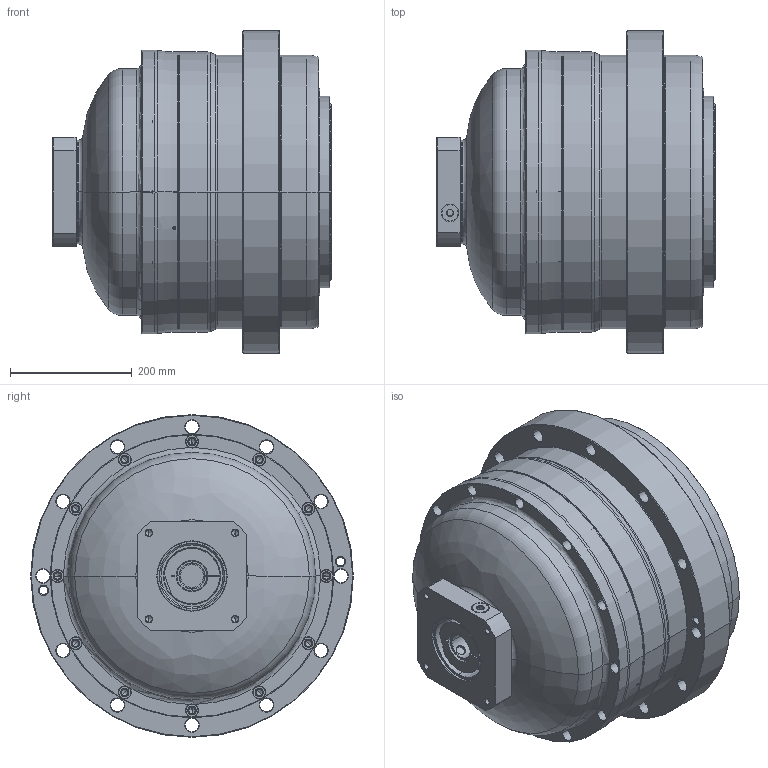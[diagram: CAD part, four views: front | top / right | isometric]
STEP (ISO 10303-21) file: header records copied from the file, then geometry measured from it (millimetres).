
FILE_DESCRIPTION((''),'2;1');
FILE_NAME('AH450_2ST_42-P0409A50101_ASM','2016-08-02T',('d01943'),(''),'PRO/ENGINEER BY PARAMETRIC TECHNOLOGY CORPORATION, 2008410','PRO/ENGINEER BY PARAMETRIC TECHNOLOGY CORPORATION, 2008410','');
FILE_SCHEMA(('CONFIG_CONTROL_DESIGN'));
Length unit declared in the file: millimetre
Products named in the file (8): P0276200003; P0357200003; P1339200201; P0409A50101; P0503A00012; P0962202001; 21711422019; AH450_2ST_42-P0409A50101_ASM
Assembly tree (7 placements, depth 2):
  AH450_2ST_42-P0409A50101_ASM
    P0276200003
    P0357200003
    P1339200201
    P0409A50101
    P0503A00012
    P0962202001
    21711422019
Bounding box: 457 x 530 x 530 mm (x, y, z)
Volume: 52474051.1 mm3; surface area: 1939831.6 mm2
Topology: 8 solids, 8 shells, 826 faces, 1875 edges, 1082 vertices
Faces by surface type: cylinder 298, cone 284, torus 112, plane 104, bspline 28
Entity records: 27917 total; most frequent: CARTESIAN_POINT 8895, DIRECTION 4353, ORIENTED_EDGE 3646, AXIS2_PLACEMENT_3D 1846, EDGE_CURVE 1823, VERTEX_POINT 1082, CIRCLE 1033, EDGE_LOOP 987
